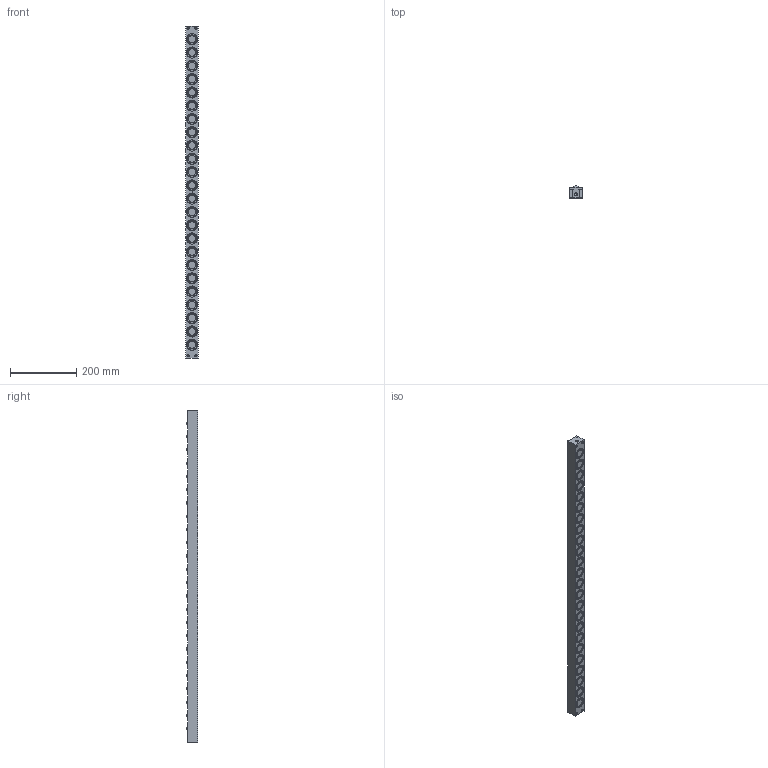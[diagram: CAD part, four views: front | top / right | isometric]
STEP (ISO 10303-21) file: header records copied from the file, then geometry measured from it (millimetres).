
FILE_DESCRIPTION (( 'STEP AP203' ), '1' );
FILE_NAME ('PVL30S-24.STEP', '2016-02-18T05:24:18', ( '' ), ( '' ), 'SwSTEP 2.0', 'SolidWorks 2013', '' );
FILE_SCHEMA (( 'CONFIG_CONTROL_DESIGN' ));
Length unit declared in the file: millimetre
Products named in the file (1): PVL30S-24
Bounding box: 38 x 36 x 1000 mm (x, y, z)
Volume: 1160361.6 mm3; surface area: 179589 mm2
Topology: 1 solids, 1 shells, 777 faces, 1828 edges, 1225 vertices
Faces by surface type: cylinder 498, plane 227, sphere 48, cone 4
Entity records: 23041 total; most frequent: DIRECTION 4526, CARTESIAN_POINT 3829, ORIENTED_EDGE 3652, AXIS2_PLACEMENT_3D 1922, EDGE_CURVE 1826, VERTEX_POINT 1225, CIRCLE 1144, EDGE_LOOP 959
